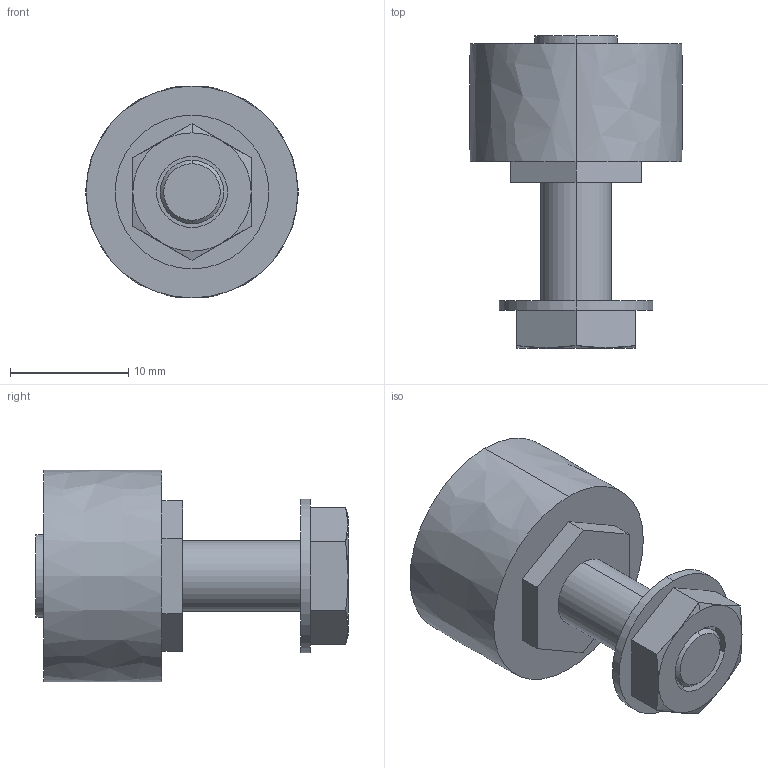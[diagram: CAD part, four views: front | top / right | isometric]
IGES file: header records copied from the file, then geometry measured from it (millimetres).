
Start section: 3D InterOp IGES (v. 2019 1.0.2), Spatial Corp. Copyright (c) 1999-2017.
Global section: file name: LR 18 CNS.igs; native system: Spatial Corp.; preprocessor: 3D InterOp GENERIC/IGES 3.0; author: Noname; organization: Noname; date: 20220628.172230; units: millimetre
Bounding box: 17.99 x 26.4 x 17.9 mm (x, y, z)
Surface area: 1691 mm2 (no closed solid volume)
Topology: 0 solids, 0 shells, 46 faces, 208 edges, 208 vertices
Faces by surface type: extrusion 27, revolution 17, bspline 2
